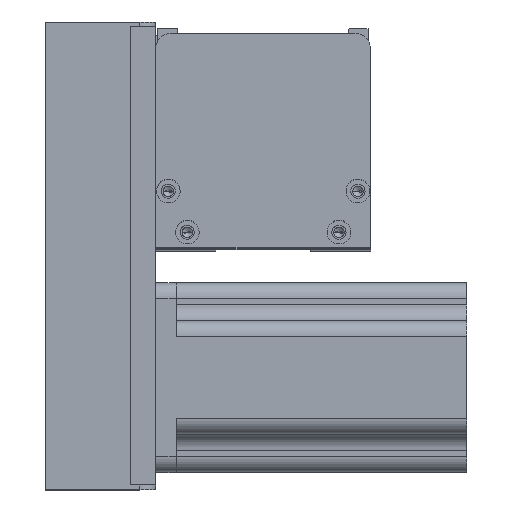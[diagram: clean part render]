
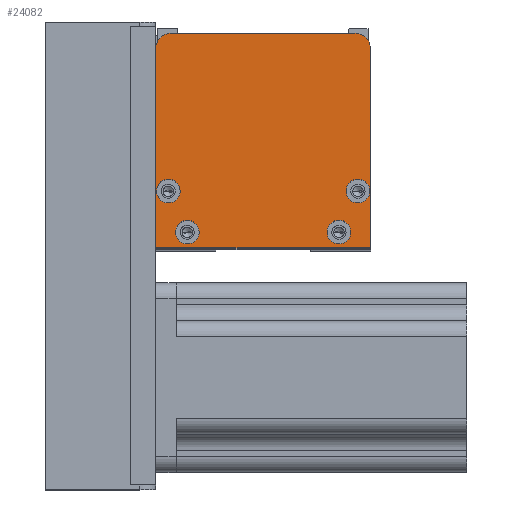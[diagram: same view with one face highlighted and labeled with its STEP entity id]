
A CAD part, top view. The second image highlights one B-rep face of the part: STEP entity #24082.
In plain terms, the highlighted planar face has unit normal (0, 0, 1) as drawn and (0, 0, -1) by its records, which use the part's own axes.
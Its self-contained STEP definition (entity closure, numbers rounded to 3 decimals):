
#149 = AXIS2_PLACEMENT_3D ( 'NONE', #12924, #16268, #2940 ) ;
#177 = ORIENTED_EDGE ( 'NONE', *, *, #9147, .F. ) ;
#199 = CARTESIAN_POINT ( 'NONE',  ( 68., 63., 0. ) ) ;
#203 = AXIS2_PLACEMENT_3D ( 'NONE', #16411, #5449, #5124 ) ;
#666 = DIRECTION ( 'NONE',  ( 0., 0., -1. ) ) ;
#716 = EDGE_CURVE ( 'NONE', #11506, #7853, #19430, .T. ) ;
#847 = DIRECTION ( 'NONE',  ( -1., 0., 0. ) ) ;
#1009 = EDGE_LOOP ( 'NONE', ( #19948, #12953 ) ) ;
#1065 = EDGE_CURVE ( 'NONE', #11476, #17897, #16185, .T. ) ;
#1160 = ORIENTED_EDGE ( 'NONE', *, *, #11220, .T. ) ;
#1239 = CARTESIAN_POINT ( 'NONE',  ( 7.75, 18., 0. ) ) ;
#1297 = ORIENTED_EDGE ( 'NONE', *, *, #3920, .F. ) ;
#1417 = EDGE_CURVE ( 'NONE', #17897, #11476, #3188, .T. ) ;
#1896 = DIRECTION ( 'NONE',  ( 0., 1., 0. ) ) ;
#1952 = AXIS2_PLACEMENT_3D ( 'NONE', #14001, #23543, #16067 ) ;
#1965 = CARTESIAN_POINT ( 'NONE',  ( 68., 0., 0. ) ) ;
#2075 = CARTESIAN_POINT ( 'NONE',  ( 10., 5., 0. ) ) ;
#2400 = DIRECTION ( 'NONE',  ( 1., 0., 0. ) ) ;
#2524 = EDGE_LOOP ( 'NONE', ( #11346, #23970, #177, #1160, #19821, #7973 ) ) ;
#2735 = EDGE_CURVE ( 'NONE', #3480, #9313, #10568, .T. ) ;
#2940 = DIRECTION ( 'NONE',  ( -1., 0., 0. ) ) ;
#2962 = ORIENTED_EDGE ( 'NONE', *, *, #18645, .F. ) ;
#3188 = CIRCLE ( 'NONE', #8691, 3.75 ) ;
#3218 = VERTEX_POINT ( 'NONE', #4183 ) ;
#3272 = CARTESIAN_POINT ( 'NONE',  ( 0., 0., 0. ) ) ;
#3480 = VERTEX_POINT ( 'NONE', #3272 ) ;
#3537 = CARTESIAN_POINT ( 'NONE',  ( 68., 0., 0. ) ) ;
#3920 = EDGE_CURVE ( 'NONE', #3218, #21440, #7473, .T. ) ;
#4183 = CARTESIAN_POINT ( 'NONE',  ( 60.25, 18., 0. ) ) ;
#4294 = CARTESIAN_POINT ( 'NONE',  ( 68., 0., 0. ) ) ;
#4746 = AXIS2_PLACEMENT_3D ( 'NONE', #13661, #19327, #2400 ) ;
#5107 = AXIS2_PLACEMENT_3D ( 'NONE', #20249, #24019, #20165 ) ;
#5124 = DIRECTION ( 'NONE',  ( -1., 0., 0. ) ) ;
#5273 = VECTOR ( 'NONE', #8260, 1000. ) ;
#5449 = DIRECTION ( 'NONE',  ( 0., 0., -1. ) ) ;
#6178 = CIRCLE ( 'NONE', #4746, 5. ) ;
#6561 = CARTESIAN_POINT ( 'NONE',  ( 0., 0., 0. ) ) ;
#7083 = CARTESIAN_POINT ( 'NONE',  ( 0., 0., 0. ) ) ;
#7135 = CARTESIAN_POINT ( 'NONE',  ( 0., 63., 0. ) ) ;
#7355 = VERTEX_POINT ( 'NONE', #8967 ) ;
#7473 = CIRCLE ( 'NONE', #5107, 3.75 ) ;
#7576 = DIRECTION ( 'NONE',  ( 0., 0., -1. ) ) ;
#7836 = VECTOR ( 'NONE', #1896, 1000. ) ;
#7853 = VERTEX_POINT ( 'NONE', #20286 ) ;
#7973 = ORIENTED_EDGE ( 'NONE', *, *, #2735, .F. ) ;
#8260 = DIRECTION ( 'NONE',  ( 1., 0., 0. ) ) ;
#8557 = LINE ( 'NONE', #7083, #22677 ) ;
#8604 = DIRECTION ( 'NONE',  ( -1., 0., 0. ) ) ;
#8691 = AXIS2_PLACEMENT_3D ( 'NONE', #2075, #7576, #17134 ) ;
#8967 = CARTESIAN_POINT ( 'NONE',  ( 5., 68., 0. ) ) ;
#9147 = EDGE_CURVE ( 'NONE', #13702, #7355, #15485, .T. ) ;
#9277 = VERTEX_POINT ( 'NONE', #7135 ) ;
#9313 = VERTEX_POINT ( 'NONE', #1965 ) ;
#9792 = EDGE_LOOP ( 'NONE', ( #1297, #18270 ) ) ;
#9796 = EDGE_CURVE ( 'NONE', #20553, #17381, #15151, .T. ) ;
#9858 = DIRECTION ( 'NONE',  ( 0., 0., -1. ) ) ;
#10191 = DIRECTION ( 'NONE',  ( -1., 0., 0. ) ) ;
#10257 = FACE_BOUND ( 'NONE', #12865, .T. ) ;
#10435 = CARTESIAN_POINT ( 'NONE',  ( 68., 68., 0. ) ) ;
#10437 = PLANE ( 'NONE',  #23281 ) ;
#10568 = LINE ( 'NONE', #4294, #5273 ) ;
#11009 = CIRCLE ( 'NONE', #11762, 3.75 ) ;
#11058 = AXIS2_PLACEMENT_3D ( 'NONE', #19548, #9858, #10191 ) ;
#11220 = EDGE_CURVE ( 'NONE', #13702, #22311, #15914, .T. ) ;
#11248 = EDGE_CURVE ( 'NONE', #9277, #7355, #6178, .T. ) ;
#11346 = ORIENTED_EDGE ( 'NONE', *, *, #19079, .F. ) ;
#11476 = VERTEX_POINT ( 'NONE', #18116 ) ;
#11506 = VERTEX_POINT ( 'NONE', #1239 ) ;
#11550 = CARTESIAN_POINT ( 'NONE',  ( 64., 18., 0. ) ) ;
#11713 = DIRECTION ( 'NONE',  ( 0., 0., -1. ) ) ;
#11762 = AXIS2_PLACEMENT_3D ( 'NONE', #11550, #11713, #17323 ) ;
#11873 = AXIS2_PLACEMENT_3D ( 'NONE', #22955, #666, #21387 ) ;
#12032 = FACE_BOUND ( 'NONE', #22147, .T. ) ;
#12097 = DIRECTION ( 'NONE',  ( 1., 0., 0. ) ) ;
#12865 = EDGE_LOOP ( 'NONE', ( #24153, #2962 ) ) ;
#12924 = CARTESIAN_POINT ( 'NONE',  ( 58., 5., 0. ) ) ;
#12953 = ORIENTED_EDGE ( 'NONE', *, *, #1065, .F. ) ;
#13661 = CARTESIAN_POINT ( 'NONE',  ( 5., 63., 0. ) ) ;
#13702 = VERTEX_POINT ( 'NONE', #23078 ) ;
#13898 = ORIENTED_EDGE ( 'NONE', *, *, #716, .F. ) ;
#13988 = CARTESIAN_POINT ( 'NONE',  ( 4., 18., 0. ) ) ;
#14001 = CARTESIAN_POINT ( 'NONE',  ( 10., 5., 0. ) ) ;
#14631 = EDGE_CURVE ( 'NONE', #9313, #22311, #21658, .T. ) ;
#15151 = CIRCLE ( 'NONE', #203, 3.75 ) ;
#15397 = CIRCLE ( 'NONE', #17401, 3.75 ) ;
#15485 = LINE ( 'NONE', #10435, #18732 ) ;
#15564 = DIRECTION ( 'NONE',  ( 0., 0., -1. ) ) ;
#15774 = CARTESIAN_POINT ( 'NONE',  ( 67.75, 18., 0. ) ) ;
#15914 = CIRCLE ( 'NONE', #11873, 5. ) ;
#15930 = EDGE_CURVE ( 'NONE', #21440, #3218, #11009, .T. ) ;
#16067 = DIRECTION ( 'NONE',  ( -1., 0., 0. ) ) ;
#16080 = EDGE_CURVE ( 'NONE', #7853, #11506, #15397, .T. ) ;
#16185 = CIRCLE ( 'NONE', #1952, 3.75 ) ;
#16268 = DIRECTION ( 'NONE',  ( 0., 0., -1. ) ) ;
#16411 = CARTESIAN_POINT ( 'NONE',  ( 58., 5., 0. ) ) ;
#17134 = DIRECTION ( 'NONE',  ( -1., 0., 0. ) ) ;
#17141 = CIRCLE ( 'NONE', #149, 3.75 ) ;
#17217 = ORIENTED_EDGE ( 'NONE', *, *, #16080, .F. ) ;
#17323 = DIRECTION ( 'NONE',  ( -1., 0., 0. ) ) ;
#17340 = FACE_BOUND ( 'NONE', #9792, .T. ) ;
#17381 = VERTEX_POINT ( 'NONE', #20108 ) ;
#17401 = AXIS2_PLACEMENT_3D ( 'NONE', #13988, #15564, #847 ) ;
#17780 = DIRECTION ( 'NONE',  ( 0., 0., 1. ) ) ;
#17897 = VERTEX_POINT ( 'NONE', #20161 ) ;
#18116 = CARTESIAN_POINT ( 'NONE',  ( 13.75, 5., 0. ) ) ;
#18270 = ORIENTED_EDGE ( 'NONE', *, *, #15930, .F. ) ;
#18445 = DIRECTION ( 'NONE',  ( 0., -1., 0. ) ) ;
#18645 = EDGE_CURVE ( 'NONE', #17381, #20553, #17141, .T. ) ;
#18732 = VECTOR ( 'NONE', #8604, 1000. ) ;
#19079 = EDGE_CURVE ( 'NONE', #9277, #3480, #8557, .T. ) ;
#19327 = DIRECTION ( 'NONE',  ( 0., 0., -1. ) ) ;
#19430 = CIRCLE ( 'NONE', #11058, 3.75 ) ;
#19548 = CARTESIAN_POINT ( 'NONE',  ( 4., 18., 0. ) ) ;
#19821 = ORIENTED_EDGE ( 'NONE', *, *, #14631, .F. ) ;
#19948 = ORIENTED_EDGE ( 'NONE', *, *, #1417, .F. ) ;
#20108 = CARTESIAN_POINT ( 'NONE',  ( 61.75, 5., 0. ) ) ;
#20161 = CARTESIAN_POINT ( 'NONE',  ( 6.25, 5., 0. ) ) ;
#20165 = DIRECTION ( 'NONE',  ( -1., 0., 0. ) ) ;
#20249 = CARTESIAN_POINT ( 'NONE',  ( 64., 18., 0. ) ) ;
#20286 = CARTESIAN_POINT ( 'NONE',  ( 0.25, 18., 0. ) ) ;
#20553 = VERTEX_POINT ( 'NONE', #23926 ) ;
#21387 = DIRECTION ( 'NONE',  ( 1., 0., 0. ) ) ;
#21438 = FACE_BOUND ( 'NONE', #1009, .T. ) ;
#21440 = VERTEX_POINT ( 'NONE', #15774 ) ;
#21658 = LINE ( 'NONE', #3537, #7836 ) ;
#22147 = EDGE_LOOP ( 'NONE', ( #17217, #13898 ) ) ;
#22311 = VERTEX_POINT ( 'NONE', #199 ) ;
#22677 = VECTOR ( 'NONE', #18445, 1000. ) ;
#22897 = FACE_OUTER_BOUND ( 'NONE', #2524, .T. ) ;
#22955 = CARTESIAN_POINT ( 'NONE',  ( 63., 63., 0. ) ) ;
#23078 = CARTESIAN_POINT ( 'NONE',  ( 63., 68., 0. ) ) ;
#23281 = AXIS2_PLACEMENT_3D ( 'NONE', #6561, #17780, #12097 ) ;
#23543 = DIRECTION ( 'NONE',  ( 0., 0., -1. ) ) ;
#23926 = CARTESIAN_POINT ( 'NONE',  ( 54.25, 5., 0. ) ) ;
#23970 = ORIENTED_EDGE ( 'NONE', *, *, #11248, .T. ) ;
#24019 = DIRECTION ( 'NONE',  ( 0., 0., -1. ) ) ;
#24082 = ADVANCED_FACE ( 'NONE', ( #17340, #12032, #21438, #10257, #22897 ), #10437, .F. ) ;
#24153 = ORIENTED_EDGE ( 'NONE', *, *, #9796, .F. ) ;
